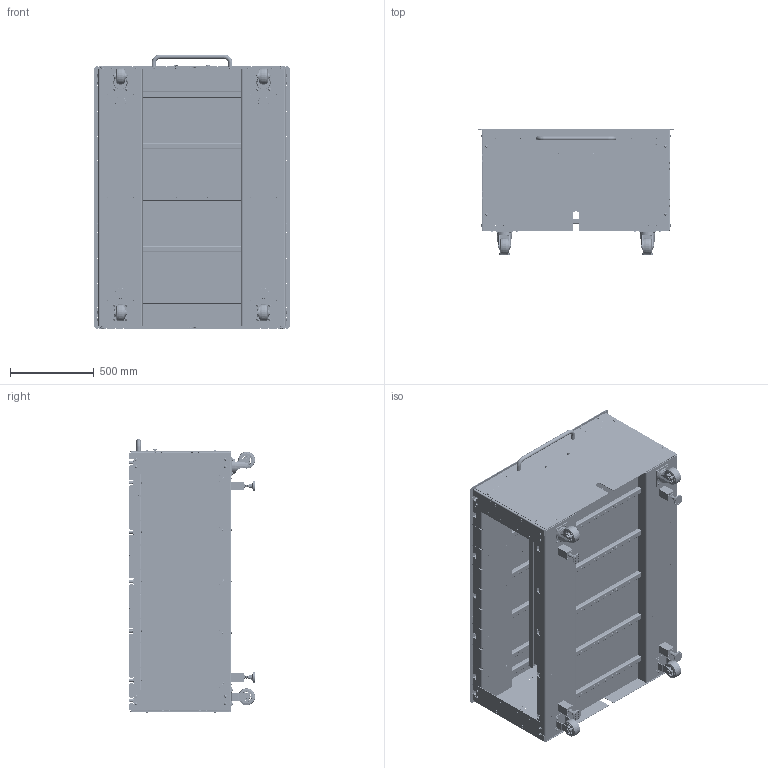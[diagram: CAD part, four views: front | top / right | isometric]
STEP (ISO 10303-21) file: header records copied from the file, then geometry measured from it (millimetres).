
FILE_DESCRIPTION (( 'STEP AP203' ), '1' );
FILE_NAME ('5013108_REV-A- VERSACART 1700 WITHOUT INFEED ADDED - 2024-12-18.STEP', '2024-12-18T18:36:12', ( '' ), ( '' ), 'SwSTEP 2.0', 'SolidWorks 2019', '' );
FILE_SCHEMA (( 'CONFIG_CONTROL_DESIGN' ));
Length unit declared in the file: inch
Products named in the file (37): 5013671_Default Configuration; 5012775_6111K191; M6 CAPTIVE NUT_99437A160; 5012069_Default Configuration; 5008042_As Machined; 5011622; 5012101_Default Configuration; M6x1.0 SHCS_SHCS M6-1.0 x 80; M6 BELLEVILLE WASHER_M6 BELLEVILLE WASHER; 5012082; 5008043_As Machined; M6x1.0 FHCS_FHCS M6x1.0x16-C; 5013699_Default Configuration; M6x1.0 FHCS_FHCS M6x1.0x18-C; 5011621; M8x1.25 FHCS_FHCS M8x1.25x16-C; 5013108_REV-A- VERSACART 1700 WITHOUT INFEED ADDED - 2024-12-18; 5012102; 5008506_Default Configuration; 5013098; 5012049_5013108 - ASSEMBLY FOR BOM; M8x1.25 HEX NUT CLASS 8_M8 HEX NUT; M6x1.0 SHCS_SHCS M6-1.0 x 12; M8X1.25 BHCS_BHCS M8x1.25 X 20mm; 0.25-20 HEX NUT UNC GRD5_0.25-20 HEX NUT-C; 5012071_Default Configuration; M8 BELLEVILLE WASHER_95221A111; M6x1.0 FHCS_FHCS M6x1.0x12-C; M4 CAPTIVE NUT_99437A140; 5012070_Default Configuration; 5013665; M8 CAPTIVE NUT_99437A170; 5003936_As Machined; 5011682_Default Configuration; 5011373_Default Configuration; 5012087_Default Configuration; 5012072
Assembly tree (559 placements, depth 3):
  5013108_REV-A- VERSACART 1700 WITHOUT INFEED ADDED - 2024-12-18
    5012049_5013108 - ASSEMBLY FOR BOM
      5012069_Default Configuration
      5012082  x12
      5012070_Default Configuration  x2
      5011682_Default Configuration  x4
      5012071_Default Configuration  x2
      5012101_Default Configuration
      5013699_Default Configuration
      5012072  x2
      5013098
      5013665  x2
      5013671_Default Configuration
      5011373_Default Configuration  x4
      5012775_6111K191  x4
      5008506_Default Configuration  x2
      5003936_As Machined
      5008042_As Machined  x2
      5008043_As Machined  x2
      M8 CAPTIVE NUT_99437A170  x48
      M8 BELLEVILLE WASHER_95221A111  x48
      M8X1.25 BHCS_BHCS M8x1.25 X 20mm  x40
      M8x1.25 HEX NUT CLASS 8_M8 HEX NUT  x8
      M6 BELLEVILLE WASHER_M6 BELLEVILLE WASHER  x50
      M6x1.0 SHCS_SHCS M6-1.0 x 12  x50
      M6x1.0 FHCS_FHCS M6x1.0x16-C  x28
      M6x1.0 SHCS_SHCS M6-1.0 x 80  x16
      M6 CAPTIVE NUT_99437A160  x56
      0.25-20 HEX NUT UNC GRD5_0.25-20 HEX NUT-C  x2
      M4 CAPTIVE NUT_99437A140  x12
      M8x1.25 FHCS_FHCS M8x1.25x16-C  x8
      5011621  x24
      5011622  x48
      5012102  x8
      M6x1.0 FHCS_FHCS M6x1.0x12-C  x48
      M6x1.0 FHCS_FHCS M6x1.0x18-C  x20
  5012087_Default Configuration
Bounding box: 1168.4 x 754.03 x 1640.27 mm (x, y, z)
Volume: 35434294.2 mm3; surface area: 20773470.1 mm2
Topology: 574 solids, 574 shells, 37610 faces, 102934 edges, 66470 vertices
Faces by surface type: plane 20850, cylinder 11698, cone 4490, bspline 244, torus 232, sphere 96
Entity records: 143300 total; most frequent: CARTESIAN_POINT 35489, DIRECTION 18947, ORIENTED_EDGE 18788, EDGE_CURVE 9394, AXIS2_PLACEMENT_3D 6937, VERTEX_POINT 6114, VECTOR 5073, LINE 5073
